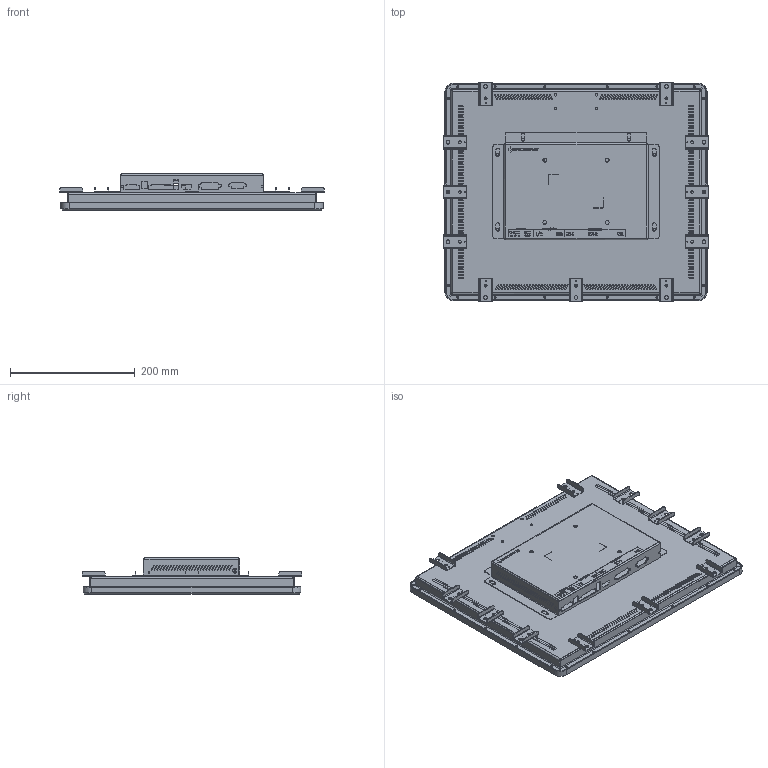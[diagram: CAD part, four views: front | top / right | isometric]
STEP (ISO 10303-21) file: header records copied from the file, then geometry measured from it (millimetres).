
FILE_DESCRIPTION(('STEP AP242'), '1');
FILE_NAME('Ñáîðêà_SDA19', '', ('UNSPECIFIED'), ('UNSPECIFIED'), 'C3D Converter', 'C3D Toolkit', '');
FILE_SCHEMA(('AP242_MANAGED_MODEL_BASED_3D_ENGINEERING_MIM_LF { 1 0 10303 442 1 1 4 }'));
Length unit declared in the file: millimetre
Bounding box: 425.06 x 353 x 58 mm (x, y, z)
Volume: 808768.3 mm3; surface area: 782026.2 mm2
Topology: 2 solids, 2 shells, 3674 faces, 10044 edges, 6570 vertices
Faces by surface type: plane 1837, extrusion 894, cylinder 883, bspline 40, cone 20
Full cylindrical faces by diameter (mm): 1.6 x11, 2 x10, 2.5 x27, 3.2 x22, 4 x6, 4.2 x11, 4.22 x10, 4.35 x11, 6 x11, 6.1 x4
Entity records: 149473 total; most frequent: CARTESIAN_POINT 28396, ORIENTED_EDGE 19842, DIRECTION 16167, EDGE_CURVE 9921, VECTOR 7205, VERTEX_POINT 6570, LINE 6311, EDGE_LOOP 4643
